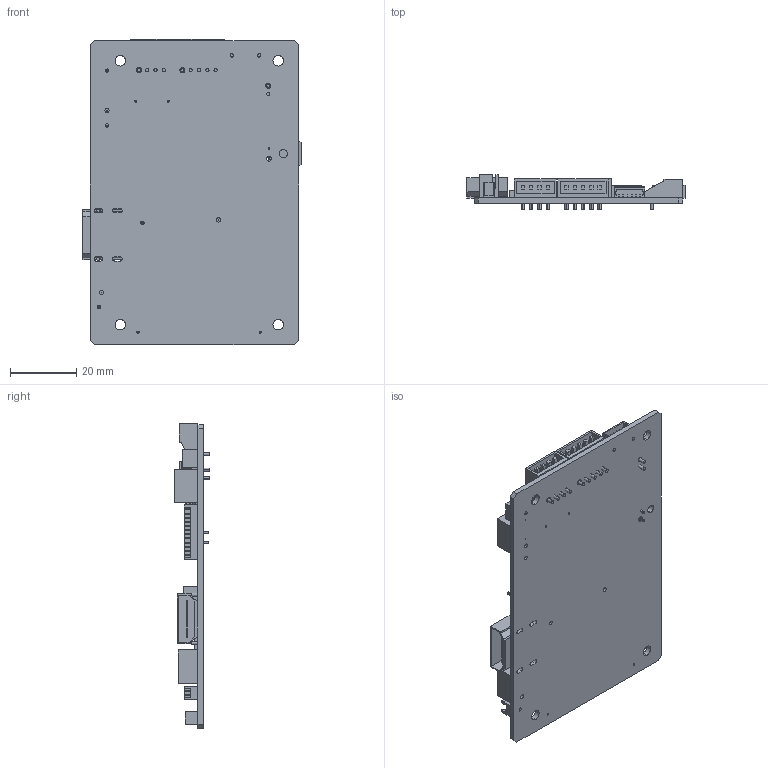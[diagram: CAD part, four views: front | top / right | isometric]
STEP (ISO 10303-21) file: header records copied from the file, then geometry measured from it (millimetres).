
FILE_DESCRIPTION (( 'STEP AP203' ), '1' );
FILE_NAME ('Assy PCB DT-1920-HDMI 417700001-3 211202.STEP', '2021-12-02T23:01:11', ( '' ), ( '' ), 'SwSTEP 2.0', 'SolidWorks 2020', '' );
FILE_SCHEMA (( 'CONFIG_CONTROL_DESIGN' ));
Length unit declared in the file: inch
Products named in the file (18): 190010405-3 DIP Switch 4P Horz; 210017303-3 Conn HDR SMT 3P RA; 210018004-3 PH Conn 2.0-F-04p; Assy PCB DT-1920-HDMI 417700001-3 211202; 210094803-3 Conn Hdr 3P Vert; 190010805-3 DIP Switch 8P Horz; 210016004-3 Conn Hdr 4P RA; 212200190-3 HDMI; 210072106-3 Conn Hdr SMT 6P RA; 210016002-3 Conn Hdr 2P RA; 210082402-3 Power 2P RA; 210061102-3 1.25-F-2P; 210010003-3 2.5-F-03p; 210006020-3 Header 20P Horiz; PCB DT-1920-HDMI 017700000-5_B 211202; 215090251-3 LVDS 51 pin; 210061112-3 1.25-F-12P; 210016005-3 Conn Hdr 5P RA
Assembly tree (18 placements, depth 2):
  Assy PCB DT-1920-HDMI 417700001-3 211202
    PCB DT-1920-HDMI 017700000-5_B 211202
    212200190-3 HDMI
    190010805-3 DIP Switch 8P Horz
    210010003-3 2.5-F-03p
    210018004-3 PH Conn 2.0-F-04p  x2
    210061102-3 1.25-F-2P
    210061112-3 1.25-F-12P
    210082402-3 Power 2P RA
    215090251-3 LVDS 51 pin
    190010405-3 DIP Switch 4P Horz
    210016002-3 Conn Hdr 2P RA
    210016004-3 Conn Hdr 4P RA
    210016005-3 Conn Hdr 5P RA
    210017303-3 Conn HDR SMT 3P RA
    210072106-3 Conn Hdr SMT 6P RA
    210094803-3 Conn Hdr 3P Vert
    210006020-3 Header 20P Horiz
Bounding box: 65.6 x 10.4 x 91.75 mm (x, y, z)
Volume: 12703.7 mm3; surface area: 20161.9 mm2
Topology: 38 solids, 38 shells, 1299 faces, 3147 edges, 2062 vertices
Faces by surface type: plane 1115, cylinder 184
Entity records: 37679 total; most frequent: CARTESIAN_POINT 6233, ORIENTED_EDGE 5994, DIRECTION 5869, EDGE_CURVE 2997, VECTOR 2641, LINE 2641, VERTEX_POINT 1962, AXIS2_PLACEMENT_3D 1614
